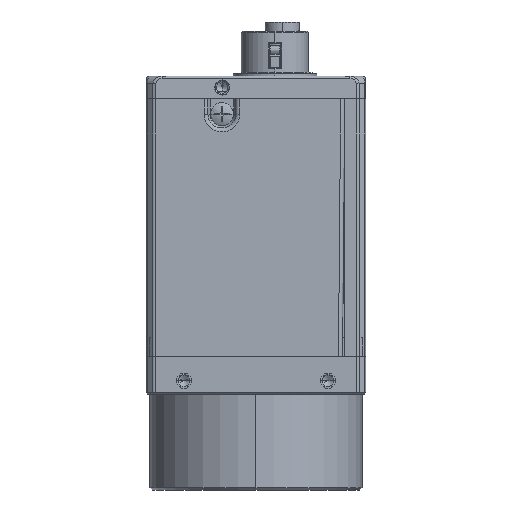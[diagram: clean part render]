
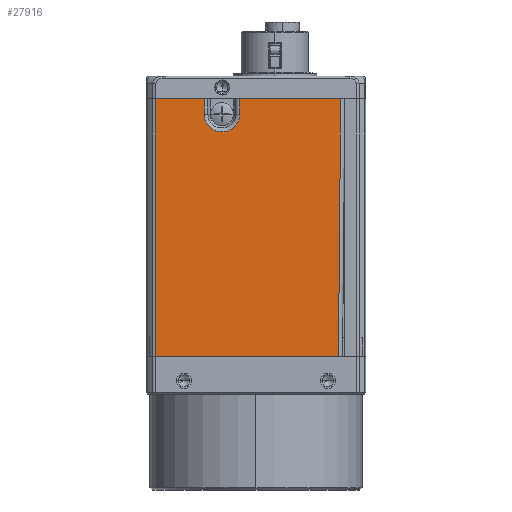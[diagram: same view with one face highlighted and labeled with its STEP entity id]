
A CAD part, left-side view. The second image highlights one B-rep face of the part: STEP entity #27916.
In plain terms, the highlighted planar face has unit normal (-1, 0, 0).
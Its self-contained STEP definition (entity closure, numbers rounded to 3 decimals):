
#25786=DIRECTION('',(0.,0.,-1.));
#25787=VECTOR('',#25786,34.);
#25788=CARTESIAN_POINT('',(-14.5,13.293,34.));
#25789=LINE('',#25788,#25787);
#25794=DIRECTION('',(0.,0.009,-1.));
#25795=VECTOR('',#25794,34.001);
#25796=CARTESIAN_POINT('',(-14.5,-11.177,34.));
#25797=LINE('',#25796,#25795);
#25798=DIRECTION('',(0.,-1.,0.));
#25799=VECTOR('',#25798,6.435);
#25800=CARTESIAN_POINT('',(-14.5,13.293,34.));
#25801=LINE('',#25800,#25799);
#25802=CARTESIAN_POINT('',(-14.5,4.5,32.));
#25803=DIRECTION('',(-1.,0.,0.));
#25804=DIRECTION('',(0.,1.,0.));
#25805=AXIS2_PLACEMENT_3D('',#25802,#25803,#25804);
#25807=CARTESIAN_POINT('',(-14.5,4.5,32.));
#25808=DIRECTION('',(-1.,0.,0.));
#25809=DIRECTION('',(0.,0.992,-0.122));
#25810=AXIS2_PLACEMENT_3D('',#25807,#25808,#25809);
#25812=DIRECTION('',(0.,-1.,0.));
#25813=VECTOR('',#25812,13.318);
#25814=CARTESIAN_POINT('',(-14.5,2.142,34.));
#25815=LINE('',#25814,#25813);
#26006=DIRECTION('',(0.,0.,-1.));
#26007=VECTOR('',#26006,2.);
#26008=CARTESIAN_POINT('',(-14.5,2.142,34.));
#26009=LINE('',#26008,#26007);
#26034=DIRECTION('',(0.,0.,1.));
#26035=VECTOR('',#26034,2.);
#26036=CARTESIAN_POINT('',(-14.5,6.858,32.));
#26037=LINE('',#26036,#26035);
#26925=DIRECTION('',(0.,-1.,0.));
#26926=VECTOR('',#26925,24.173);
#26927=CARTESIAN_POINT('',(-14.5,13.293,0.));
#26928=LINE('',#26927,#26926);
#27276=CARTESIAN_POINT('',(-14.5,13.293,0.));
#27277=VERTEX_POINT('',#27276);
#27278=CARTESIAN_POINT('',(-14.5,13.293,34.));
#27279=VERTEX_POINT('',#27278);
#27280=CARTESIAN_POINT('',(-14.5,-11.177,34.));
#27281=CARTESIAN_POINT('',(-14.5,-10.88,0.));
#27282=VERTEX_POINT('',#27280);
#27283=VERTEX_POINT('',#27281);
#27284=CARTESIAN_POINT('',(-14.5,6.858,34.));
#27285=VERTEX_POINT('',#27284);
#27286=CARTESIAN_POINT('',(-14.5,6.858,32.));
#27287=VERTEX_POINT('',#27286);
#27288=CARTESIAN_POINT('',(-14.5,6.841,31.711));
#27289=VERTEX_POINT('',#27288);
#27290=CARTESIAN_POINT('',(-14.5,2.142,32.));
#27291=VERTEX_POINT('',#27290);
#27292=CARTESIAN_POINT('',(-14.5,2.142,34.));
#27293=VERTEX_POINT('',#27292);
#27892=CARTESIAN_POINT('',(-14.5,13.5,0.));
#27893=DIRECTION('',(-1.,0.,0.));
#27894=DIRECTION('',(0.,-1.,0.));
#27895=AXIS2_PLACEMENT_3D('',#27892,#27893,#27894);
#27896=PLANE('',#27895);
#27898=ORIENTED_EDGE('',*,*,#27897,.T.);
#27900=ORIENTED_EDGE('',*,*,#27899,.F.);
#27901=ORIENTED_EDGE('',*,*,#27883,.F.);
#27903=ORIENTED_EDGE('',*,*,#27902,.T.);
#27905=ORIENTED_EDGE('',*,*,#27904,.F.);
#27907=ORIENTED_EDGE('',*,*,#27906,.T.);
#27909=ORIENTED_EDGE('',*,*,#27908,.T.);
#27911=ORIENTED_EDGE('',*,*,#27910,.F.);
#27913=ORIENTED_EDGE('',*,*,#27912,.T.);
#27914=EDGE_LOOP('',(#27898,#27900,#27901,#27903,#27905,#27907,#27909,#27911,
#27913));
#27915=FACE_OUTER_BOUND('',#27914,.F.);
#27916=ADVANCED_FACE('',(#27915),#27896,.T.);
#25806=CIRCLE('',#25805,2.358);
#25811=CIRCLE('',#25810,2.358);
#27883=EDGE_CURVE('',#27279,#27277,#25789,.T.);
#27897=EDGE_CURVE('',#27282,#27283,#25797,.T.);
#27899=EDGE_CURVE('',#27277,#27283,#26928,.T.);
#27902=EDGE_CURVE('',#27279,#27285,#25801,.T.);
#27904=EDGE_CURVE('',#27287,#27285,#26037,.T.);
#27906=EDGE_CURVE('',#27287,#27289,#25806,.T.);
#27908=EDGE_CURVE('',#27289,#27291,#25811,.T.);
#27910=EDGE_CURVE('',#27293,#27291,#26009,.T.);
#27912=EDGE_CURVE('',#27293,#27282,#25815,.T.);
